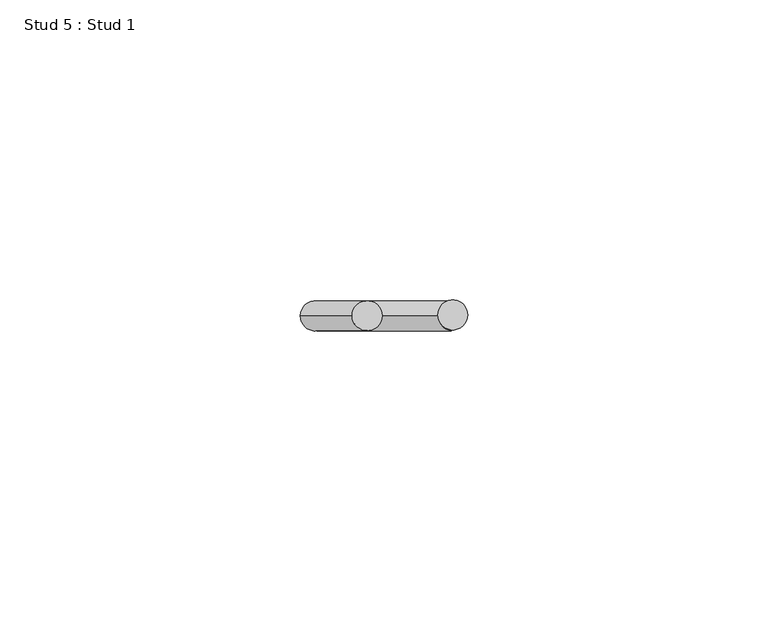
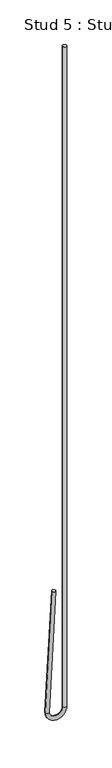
"""IFC4 building model written with IfcOpenShell, lengths in millimetres: proxy geometry, Stud 5 : Stud 1."""

from ifc_helpers import new_model, si_unit, point, frame, origin, place, context, project, spatial, circle_curve, ellipse_curve, trimmed, source, transform, mapped, element, save
from ifc_brep_helpers import plane_surface, cylinder_surface, revolved_surface, advanced_brep


def stud_5_stud_1_151b5730(model_context):
    return source(origin(), model_context, "Body", "AdvancedBrep", [
        advanced_brep(
        [(-10978.2326538, 7110.5191481, 3640.800192), (-10973.2395061, 7110.5191481, 3640.5385122), (-10986.8733201, 7110.5191481, 3475.9264558), (-10981.8801725, 7110.5191481, 3475.664776), (-10963.9714562, 7110.5191481, 3475.7956159), (-10958.9714562, 7110.5191481, 3475.7956159), (-10958.9714562, 7110.5191481, 4390.1956159), (-10963.9714562, 7110.5191481, 4390.1956159)],
        [
            (0, 1, circle_curve(frame((-10975.7360799, 7110.5191481, 3640.6693521), z_axis=(0.05233595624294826, 0.0, 0.9986295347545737), x_axis=(0.9986295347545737, 0.0, -0.05233595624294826)), 2.5)),
            (1, 0, circle_curve(frame((-10975.7360799, 7110.5191481, 3640.6693521), z_axis=(0.05233595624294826, 0.0, 0.9986295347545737), x_axis=(0.9986295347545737, 0.0, -0.05233595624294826)), 2.5)),
            (0, 2),
            (2, 3, circle_curve(frame((-10984.3767463, 7110.5191481, 3475.7956159), z_axis=(0.05233595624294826, 0.0, 0.9986295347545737), x_axis=(0.9986295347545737, 0.0, -0.05233595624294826)), 2.5)),
            (3, 1),
            (3, 2, circle_curve(frame((-10984.3767463, 7110.5191481, 3475.7956159), z_axis=(0.05233595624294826, 0.0, 0.9986295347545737), x_axis=(0.9986295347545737, 0.0, -0.05233595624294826)), 2.5)),
            (4, 3, circle_curve(frame((-10972.9241013, 7110.5191481, 3475.7956159), z_axis=(0.0, 1.0, 0.0), x_axis=(-1.0, 0.0, 0.0)), 8.952645)),
            (2, 5, circle_curve(frame((-10972.9241013, 7110.5191481, 3475.7956159), z_axis=(0.0, -1.0, 0.0), x_axis=(-1.0, 0.0, 0.0)), 13.952645)),
            (5, 4, circle_curve(frame((-10961.4714562, 7110.5191481, 3475.7956159), z_axis=(0.0, 0.0, -1.0), x_axis=(-1.0, 0.0, 0.0)), 2.5)),
            (4, 5, circle_curve(frame((-10961.4714562, 7110.5191481, 3475.7956159), z_axis=(0.0, 0.0, -1.0), x_axis=(-1.0, 0.0, 0.0)), 2.5)),
            (6, 7, circle_curve(frame((-10961.4714562, 7110.5191481, 4390.1956159), z_axis=(0.0, 0.0, 1.0), x_axis=(-1.0, 0.0, 0.0)), 2.5)),
            (7, 6, circle_curve(frame((-10961.4714562, 7110.5191481, 4390.1956159), z_axis=(0.0, 0.0, 1.0), x_axis=(-1.0, 0.0, 0.0)), 2.5)),
            (5, 6),
            (7, 4),
        ],
        [
            plane_surface(frame((-10975.7360799, 7704.2441481, 3640.6693521), z_axis=(0.05233595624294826, 0.0, 0.9986295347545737), x_axis=(0.0, -1.0, 0.0))),
            cylinder_surface(frame((-10975.7360799, 7110.5191481, 3640.6693521), z_axis=(0.05233595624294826, 0.0, 0.9986295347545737), x_axis=(0.9986295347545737, 0.0, -0.05233595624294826)), 2.5),
            revolved_surface(trimmed(ellipse_curve(frame((-10984.3767463, 7110.5191481, 3475.7956159), z_axis=(0.0, 0.0, 1.0), x_axis=(1.0, 0.0, 0.0)), 2.5, 2.5), [point((-10986.8767463, 7110.5191481, 3475.7956159))], [point((-10981.8767463, 7110.5191481, 3475.7956159))], True, "CARTESIAN"), (-10972.9241013, 7704.2441481, 3475.7956159), (0.0, -1.0, 0.0)),
            revolved_surface(trimmed(ellipse_curve(frame((-10984.3767463, 7110.5191481, 3475.7956159), z_axis=(0.0, 0.0, 1.0), x_axis=(1.0, 0.0, 0.0)), 2.5, 2.5), [point((-10981.8767463, 7110.5191481, 3475.7956159))], [point((-10986.8767463, 7110.5191481, 3475.7956159))], True, "CARTESIAN"), (-10972.9241013, 7704.2441481, 3475.7956159), (0.0, -1.0, 0.0)),
            plane_surface(frame((-10961.4714562, 7704.2441481, 4390.1956159), z_axis=(0.0, 0.0, 1.0), x_axis=(0.0, -1.0, 0.0))),
            cylinder_surface(frame((-10961.4714562, 7110.5191481, 3475.7956159), z_axis=(0.0, 0.0, -1.0), x_axis=(-1.0, 0.0, 0.0)), 2.5),
        ],
        [
            (0, [[1, 2]]),
            (1, [[-1, 3, 4, 5]]),
            (1, [[-2, -5, 6, -3]]),
            (2, [[7, -4, 8, 9]]),
            (3, [[-8, -6, -7, 10]]),
            (4, [[11, 12]]),
            (5, [[-9, 13, -12, 14]]),
            (5, [[-10, -14, -11, -13]]),
        ],
    ),
    ])


if __name__ == "__main__":
    model = new_model("IFC4")
    model_context = context("Model", 3, world=origin())
    ifc_project = project(units=[si_unit("LENGTHUNIT", "METRE", prefix="MILLI")], contexts=[model_context])
    site = spatial("IfcSite", under=ifc_project)
    building = spatial("IfcBuilding", under=site)
    placement = place(None, origin())
    stud_5_stud_1_shape = stud_5_stud_1_151b5730(model_context)
    element("IfcBuildingElementProxy", 1, Name="Stud 5 : Stud 1", ObjectType="Stud 5 : Stud 1", at=placement, inside=building, context=model_context, shape_type="MappedRepresentation", body=[
        mapped(stud_5_stud_1_shape, transform((0.0, 0.0, 0.0), x_axis=(1.0, 0.0, 0.0), y_axis=(0.0, 1.0, 0.0), z_axis=(0.0, 0.0, 1.0))),
    ])
    save(model, "model.ifc")
